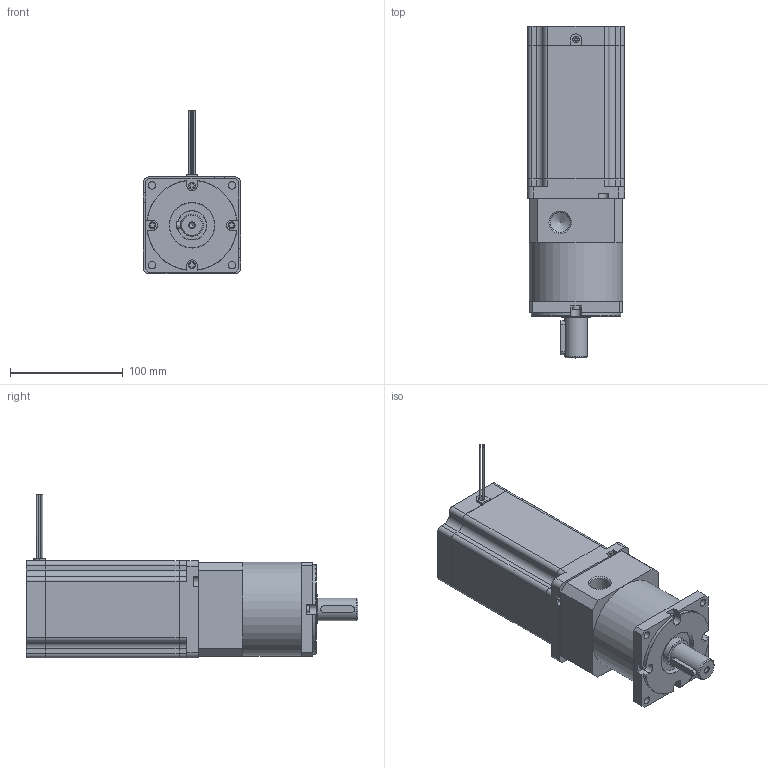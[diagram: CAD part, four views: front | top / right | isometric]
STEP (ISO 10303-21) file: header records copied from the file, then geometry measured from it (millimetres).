
FILE_DESCRIPTION(/* description */ (''),/* implementation_level */ '2;1');
FILE_NAME(/* name */ '86HS155-6308PLF10(80BLF).stp',/* time_stamp */ '2022-05-24T16:49:56+08:00',/* author */ (''),/* organization */ (''),/* preprocessor_version */ 'ST-DEVELOPER v15',/* originating_system */ 'SIEMENS PLM Software NX 10.0',/* authorisation */ '');
FILE_SCHEMA (('CONFIG_CONTROL_DESIGN'));
Length unit declared in the file: millimetre
Products named in the file (6): 80PLF 减速箱; 螺钉; 086.001BB; 001f-1; 118.5Hdingz; 86HS155-6308PLF10(80BLF)
Assembly tree (8 placements, depth 2):
  86HS155-6308PLF10(80BLF)
    118.5Hdingz
    001f-1
    086.001BB
    螺钉  x4
    80PLF 减速箱
Bounding box: 86 x 294 x 145 mm (x, y, z)
Volume: 1583897.2 mm3; surface area: 158155.6 mm2
Topology: 8 solids, 8 shells, 352 faces, 957 edges, 637 vertices
Faces by surface type: plane 234, cylinder 100, cone 14, bspline 4
Full cylindrical faces by diameter (mm): 1.5 x4, 4 x4, 4.7 x4, 5 x1, 6 x8, 6.5 x4, 6.6 x4, 17 x2, 17.5 x2, 20 x1, 26 x1, 40 x1, 52 x1, 73 x2, 83 x1
Entity records: 9950 total; most frequent: CARTESIAN_POINT 1926, DIRECTION 1515, ORIENTED_EDGE 1444, EDGE_CURVE 722, AXIS2_PLACEMENT_3D 519, VERTEX_POINT 508, LINE 477, VECTOR 477
